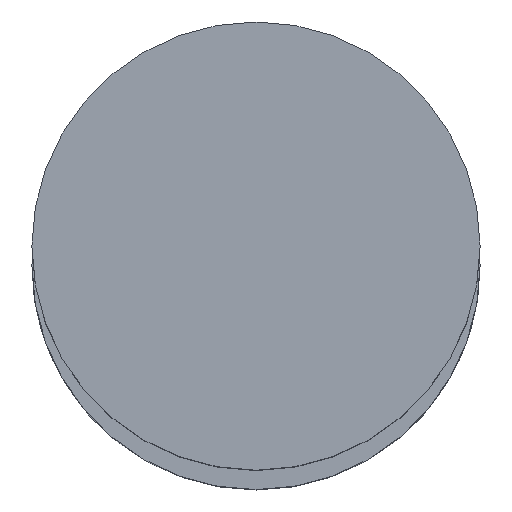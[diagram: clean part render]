
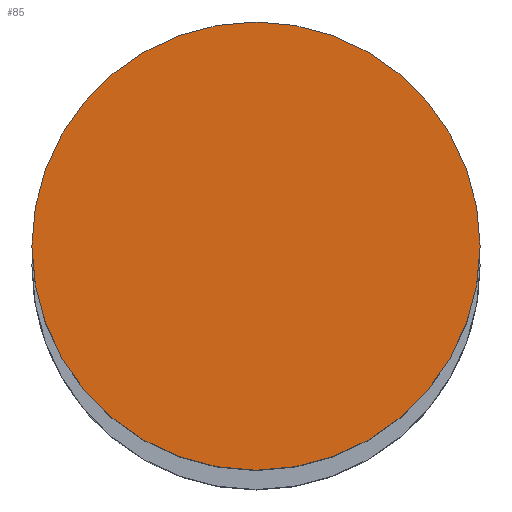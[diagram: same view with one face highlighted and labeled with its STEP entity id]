
A CAD part, top view. The second image highlights one B-rep face of the part: STEP entity #85.
In plain terms, the highlighted planar face has unit normal (0, 0, 1).
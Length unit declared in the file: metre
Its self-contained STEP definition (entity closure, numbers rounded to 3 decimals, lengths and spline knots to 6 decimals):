
#85=ADVANCED_FACE('56:4857',(#165),#166,.F.);
#165=FACE_OUTER_BOUND('',#244,.T.);
#166=PLANE('',#245);
#244=EDGE_LOOP('',(#390,#391));
#245=AXIS2_PLACEMENT_3D('',#392,#393,#394);
#390=ORIENTED_EDGE('',*,*,#433,.F.);
#391=ORIENTED_EDGE('',*,*,#478,.F.);
#392=CARTESIAN_POINT('',(-0.000092,0.000095,3.504));
#393=DIRECTION('',(0.0,0.0,-1.0));
#394=DIRECTION('',(1.0,0.0,0.0));
#433=EDGE_CURVE('27:1418',#505,#501,#507,.T.);
#478=EDGE_CURVE('',#501,#505,#572,.T.);
#501=VERTEX_POINT('',#607);
#505=VERTEX_POINT('',#612);
#507=CIRCLE('',#615,0.0155);
#572=CIRCLE('',#694,0.0155);
#607=CARTESIAN_POINT('',(0.015408,0.000095,3.504));
#612=CARTESIAN_POINT('',(-0.015592,0.000095,3.504));
#615=AXIS2_PLACEMENT_3D('',#736,#737,#738);
#694=AXIS2_PLACEMENT_3D('',#801,#802,#803);
#736=CARTESIAN_POINT('',(-0.000092,0.000095,3.504));
#737=DIRECTION('',(0.0,0.0,-1.0));
#738=DIRECTION('',(1.0,0.0,0.0));
#801=CARTESIAN_POINT('',(-0.000092,0.000095,3.504));
#802=DIRECTION('',(0.0,0.0,-1.0));
#803=DIRECTION('',(1.0,0.0,0.0));
